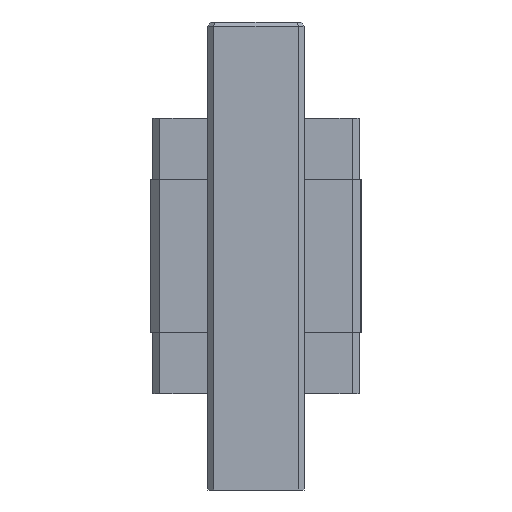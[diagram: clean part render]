
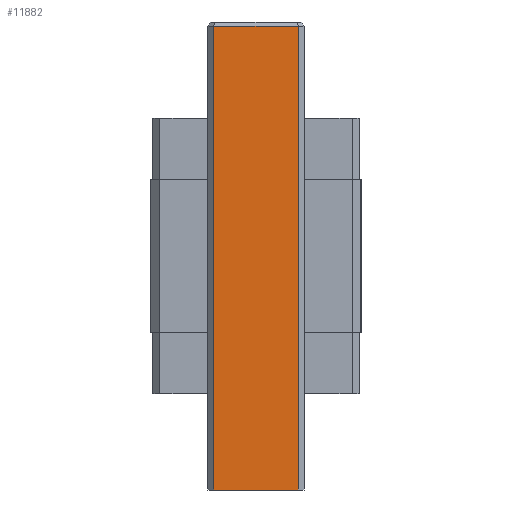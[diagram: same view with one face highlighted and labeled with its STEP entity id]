
A CAD part, front view. The second image highlights one B-rep face of the part: STEP entity #11882.
In plain terms, the highlighted planar face has unit normal (0, -1, 0).
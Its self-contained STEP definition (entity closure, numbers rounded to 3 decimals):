
#10843=DIRECTION('',(1.,0.,0.));
#10844=VECTOR('',#10843,17.6);
#10845=CARTESIAN_POINT('',(-8.8,-12.4,-48.65));
#10846=LINE('',#10845,#10844);
#11116=DIRECTION('',(1.,0.,0.));
#11117=VECTOR('',#11116,17.6);
#11118=CARTESIAN_POINT('',(-8.8,-12.4,47.784));
#11119=LINE('',#11118,#11117);
#11120=DIRECTION('',(0.,0.,1.));
#11121=VECTOR('',#11120,96.434);
#11122=CARTESIAN_POINT('',(-8.8,-12.4,-48.65));
#11123=LINE('',#11122,#11121);
#11128=DIRECTION('',(0.,0.,1.));
#11129=VECTOR('',#11128,96.434);
#11130=CARTESIAN_POINT('',(8.8,-12.4,-48.65));
#11131=LINE('',#11130,#11129);
#11314=CARTESIAN_POINT('',(-8.8,-12.4,-48.65));
#11315=VERTEX_POINT('',#11314);
#11316=CARTESIAN_POINT('',(8.8,-12.4,-48.65));
#11317=VERTEX_POINT('',#11316);
#11378=CARTESIAN_POINT('',(8.8,-12.4,47.784));
#11379=VERTEX_POINT('',#11378);
#11382=CARTESIAN_POINT('',(-8.8,-12.4,47.784));
#11383=VERTEX_POINT('',#11382);
#11870=CARTESIAN_POINT('',(-8.8,-12.4,-48.65));
#11871=DIRECTION('',(0.,-1.,0.));
#11872=DIRECTION('',(1.,0.,0.));
#11873=AXIS2_PLACEMENT_3D('',#11870,#11871,#11872);
#11874=PLANE('',#11873);
#11875=ORIENTED_EDGE('',*,*,#11861,.T.);
#11877=ORIENTED_EDGE('',*,*,#11876,.F.);
#11878=ORIENTED_EDGE('',*,*,#11463,.F.);
#11879=ORIENTED_EDGE('',*,*,#11836,.T.);
#11880=EDGE_LOOP('',(#11875,#11877,#11878,#11879));
#11881=FACE_OUTER_BOUND('',#11880,.F.);
#11463=EDGE_CURVE('',#11315,#11317,#10846,.T.);
#11836=EDGE_CURVE('',#11315,#11383,#11123,.T.);
#11861=EDGE_CURVE('',#11383,#11379,#11119,.T.);
#11876=EDGE_CURVE('',#11317,#11379,#11131,.T.);
#11882=ADVANCED_FACE('',(#11881),#11874,.T.);
